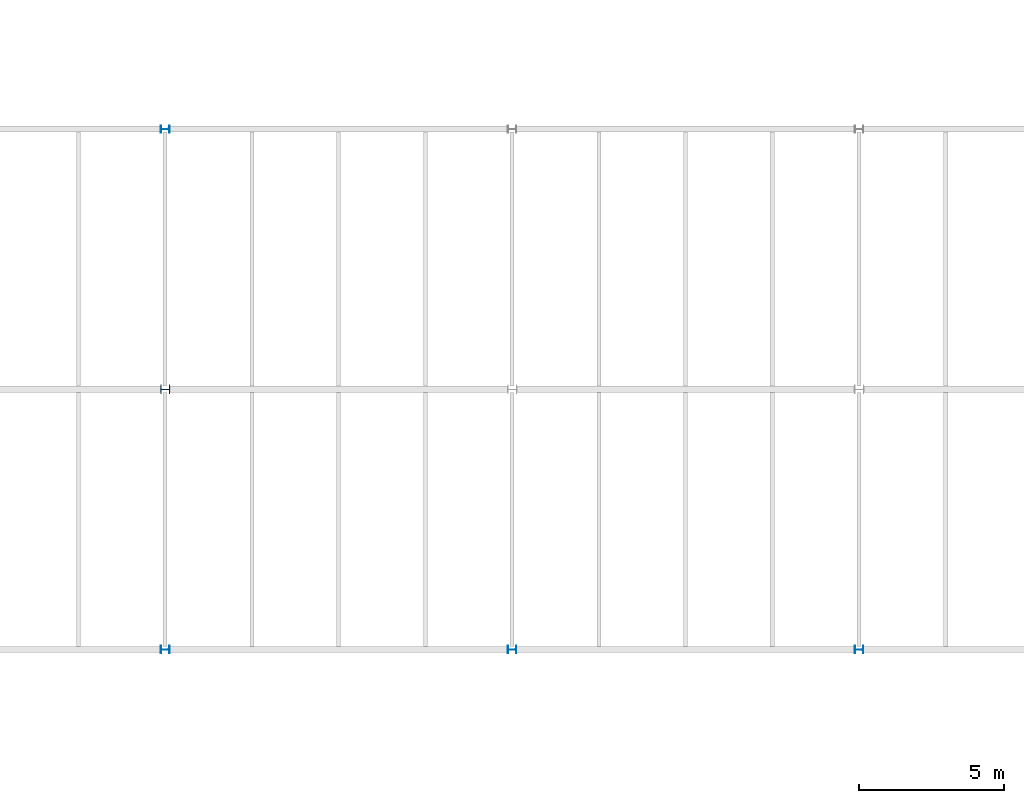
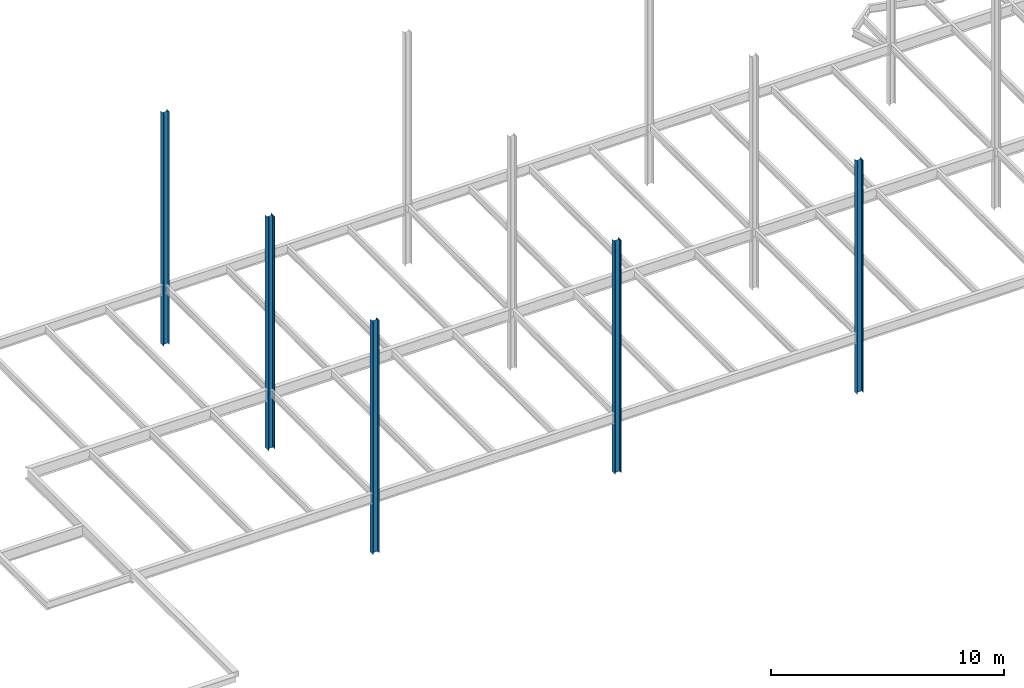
# One storey, part 1 of 26: 5 columns.
"""IFC2X3 building model written with IfcOpenShell, lengths in millimetres."""

from ifc_helpers import new_model, si_unit, origin, place, context, project, spatial, faceted_brep, material, element, save


model = new_model("IFC2X3")

# Units and contexts
context_of_model = context(None, 3, precision=1e-05, world=origin())
ifc_project = project(units=[si_unit("LENGTHUNIT", "METRE", prefix="MILLI")], contexts=[context_of_model])

# Building, storey
building = spatial("IfcBuilding", under=ifc_project, Name="Building", CompositionType="ELEMENT")
storey = spatial("IfcBuildingStorey", under=building, Name="FL4-FRM", CompositionType="ELEMENT")

# Columns
ifc_material_1 = material(Name="A992")
column_1_placement = place(None, origin())
element("IfcColumn", 1, at=column_1_placement, inside=storey, material=ifc_material_1, Name="Column299", context=context_of_model, shape_type="Brep", body=[
    faceted_brep([(24153.0, 26873.0, 10194.2), (24153.0, 27127.0, 10194.2), (24153.0, 27127.0, 22373.0), (24153.0, 26873.0, 22373.0), (24138.4, 27127.0, 10194.2), (24138.4, 27127.0, 22373.0), (24138.4, 27019.6, 10194.2), (24138.4, 27019.6, 22373.0), (24137.9, 27015.7, 10194.2), (24137.9, 27015.7, 22373.0), (24136.4, 27012.0, 10194.2), (24136.4, 27012.0, 22373.0), (24133.9, 27008.9, 10194.2), (24133.9, 27008.9, 22373.0), (24130.8, 27006.4, 10194.2), (24130.8, 27006.4, 22373.0), (24127.1, 27004.9, 10194.2), (24127.1, 27004.9, 22373.0), (24123.2, 27004.4, 10194.2), (24123.2, 27004.4, 22373.0), (23876.8, 27004.4, 10194.2), (23876.8, 27004.4, 22373.0), (23872.9, 27004.9, 10194.2), (23872.9, 27004.9, 22373.0), (23869.2, 27006.4, 10194.2), (23869.2, 27006.4, 22373.0), (23866.1, 27008.9, 10194.2), (23866.1, 27008.9, 22373.0), (23863.6, 27012.0, 10194.2), (23863.6, 27012.0, 22373.0), (23862.1, 27015.7, 10194.2), (23862.1, 27015.7, 22373.0), (23861.6, 27019.6, 10194.2), (23861.6, 27019.6, 22373.0), (23861.6, 27127.0, 10194.2), (23861.6, 27127.0, 22373.0), (23847.0, 27127.0, 10194.2), (23847.0, 27127.0, 22373.0), (23847.0, 26873.0, 10194.2), (23847.0, 26873.0, 22373.0), (23861.6, 26873.0, 10194.2), (23861.6, 26873.0, 22373.0), (23861.6, 26980.4, 10194.2), (23861.6, 26980.4, 22373.0), (23862.1, 26984.3, 10194.2), (23862.1, 26984.3, 22373.0), (23863.6, 26988.0, 10194.2), (23863.6, 26988.0, 22373.0), (23866.1, 26991.1, 10194.2), (23866.1, 26991.1, 22373.0), (23869.2, 26993.6, 10194.2), (23869.2, 26993.6, 22373.0), (23872.9, 26995.1, 10194.2), (23872.9, 26995.1, 22373.0), (23876.8, 26995.6, 10194.2), (23876.8, 26995.6, 22373.0), (24123.2, 26995.6, 10194.2), (24123.2, 26995.6, 22373.0), (24127.1, 26995.1, 10194.2), (24127.1, 26995.1, 22373.0), (24130.8, 26993.6, 10194.2), (24130.8, 26993.6, 22373.0), (24133.9, 26991.1, 10194.2), (24133.9, 26991.1, 22373.0), (24136.4, 26988.0, 10194.2), (24136.4, 26988.0, 22373.0), (24137.9, 26984.3, 10194.2), (24137.9, 26984.3, 22373.0), (24138.4, 26980.4, 10194.2), (24138.4, 26980.4, 22373.0), (24138.4, 26873.0, 10194.2), (24138.4, 26873.0, 22373.0)], [[[0, 1, 2, 3]], [[1, 4, 5, 2]], [[4, 6, 7, 5]], [[6, 8, 9, 7]], [[8, 10, 11, 9]], [[10, 12, 13, 11]], [[12, 14, 15, 13]], [[14, 16, 17, 15]], [[16, 18, 19, 17]], [[18, 20, 21, 19]], [[20, 22, 23, 21]], [[22, 24, 25, 23]], [[24, 26, 27, 25]], [[26, 28, 29, 27]], [[28, 30, 31, 29]], [[30, 32, 33, 31]], [[32, 34, 35, 33]], [[34, 36, 37, 35]], [[36, 38, 39, 37]], [[38, 40, 41, 39]], [[40, 42, 43, 41]], [[42, 44, 45, 43]], [[44, 46, 47, 45]], [[46, 48, 49, 47]], [[48, 50, 51, 49]], [[50, 52, 53, 51]], [[52, 54, 55, 53]], [[54, 56, 57, 55]], [[56, 58, 59, 57]], [[58, 60, 61, 59]], [[60, 62, 63, 61]], [[62, 64, 65, 63]], [[64, 66, 67, 65]], [[66, 68, 69, 67]], [[68, 70, 71, 69]], [[70, 0, 3, 71]], [[0, 70, 68, 66, 64, 62, 60, 58, 56, 54, 52, 50, 48, 46, 44, 42, 40, 38, 36, 34, 32, 30, 28, 26, 24, 22, 20, 18, 16, 14, 12, 10, 8, 6, 4, 1]], [[3, 2, 5, 7, 9, 11, 13, 15, 17, 19, 21, 23, 25, 27, 29, 31, 33, 35, 37, 39, 41, 43, 45, 47, 49, 51, 53, 55, 57, 59, 61, 63, 65, 67, 69, 71]]]),
])
ifc_material_2 = material(Name="A992")
column_2_placement = place(None, origin())
element("IfcColumn", 2, at=column_2_placement, inside=storey, material=ifc_material_2, Name="Column301", context=context_of_model, shape_type="Brep", body=[
    faceted_brep([(24157.0, 17846.5, 10194.2), (24157.0, 18153.5, 10194.2), (24157.0, 18153.5, 22373.0), (24157.0, 17846.5, 22373.0), (24138.3, 18153.5, 10194.2), (24138.3, 18153.5, 22373.0), (24138.3, 18021.1, 10194.2), (24138.3, 18021.1, 22373.0), (24137.8, 18017.2, 10194.2), (24137.8, 18017.2, 22373.0), (24136.3, 18013.5, 10194.2), (24136.3, 18013.5, 22373.0), (24133.8, 18010.4, 10194.2), (24133.8, 18010.4, 22373.0), (24130.7, 18008.0, 10194.2), (24130.7, 18008.0, 22373.0), (24127.0, 18006.5, 10194.2), (24127.0, 18006.5, 22373.0), (24123.1, 18005.9, 10194.2), (24123.1, 18005.9, 22373.0), (23876.9, 18005.9, 10194.2), (23876.9, 18005.9, 22373.0), (23873.0, 18006.5, 10194.2), (23873.0, 18006.5, 22373.0), (23869.3, 18008.0, 10194.2), (23869.3, 18008.0, 22373.0), (23866.2, 18010.4, 10194.2), (23866.2, 18010.4, 22373.0), (23863.7, 18013.5, 10194.2), (23863.7, 18013.5, 22373.0), (23862.2, 18017.2, 10194.2), (23862.2, 18017.2, 22373.0), (23861.7, 18021.1, 10194.2), (23861.7, 18021.1, 22373.0), (23861.7, 18153.5, 10194.2), (23861.7, 18153.5, 22373.0), (23843.0, 18153.5, 10194.2), (23843.0, 18153.5, 22373.0), (23843.0, 17846.5, 10194.2), (23843.0, 17846.5, 22373.0), (23861.7, 17846.5, 10194.2), (23861.7, 17846.5, 22373.0), (23861.7, 17978.9, 10194.2), (23861.7, 17978.9, 22373.0), (23862.2, 17982.8, 10194.2), (23862.2, 17982.8, 22373.0), (23863.7, 17986.5, 10194.2), (23863.7, 17986.5, 22373.0), (23866.2, 17989.6, 10194.2), (23866.2, 17989.6, 22373.0), (23869.3, 17992.0, 10194.2), (23869.3, 17992.0, 22373.0), (23873.0, 17993.5, 10194.2), (23873.0, 17993.5, 22373.0), (23876.9, 17994.1, 10194.2), (23876.9, 17994.1, 22373.0), (24123.1, 17994.1, 10194.2), (24123.1, 17994.1, 22373.0), (24127.0, 17993.5, 10194.2), (24127.0, 17993.5, 22373.0), (24130.7, 17992.0, 10194.2), (24130.7, 17992.0, 22373.0), (24133.8, 17989.6, 10194.2), (24133.8, 17989.6, 22373.0), (24136.3, 17986.5, 10194.2), (24136.3, 17986.5, 22373.0), (24137.8, 17982.8, 10194.2), (24137.8, 17982.8, 22373.0), (24138.3, 17978.9, 10194.2), (24138.3, 17978.9, 22373.0), (24138.3, 17846.5, 10194.2), (24138.3, 17846.5, 22373.0)], [[[0, 1, 2, 3]], [[1, 4, 5, 2]], [[4, 6, 7, 5]], [[6, 8, 9, 7]], [[8, 10, 11, 9]], [[10, 12, 13, 11]], [[12, 14, 15, 13]], [[14, 16, 17, 15]], [[16, 18, 19, 17]], [[18, 20, 21, 19]], [[20, 22, 23, 21]], [[22, 24, 25, 23]], [[24, 26, 27, 25]], [[26, 28, 29, 27]], [[28, 30, 31, 29]], [[30, 32, 33, 31]], [[32, 34, 35, 33]], [[34, 36, 37, 35]], [[36, 38, 39, 37]], [[38, 40, 41, 39]], [[40, 42, 43, 41]], [[42, 44, 45, 43]], [[44, 46, 47, 45]], [[46, 48, 49, 47]], [[48, 50, 51, 49]], [[50, 52, 53, 51]], [[52, 54, 55, 53]], [[54, 56, 57, 55]], [[56, 58, 59, 57]], [[58, 60, 61, 59]], [[60, 62, 63, 61]], [[62, 64, 65, 63]], [[64, 66, 67, 65]], [[66, 68, 69, 67]], [[68, 70, 71, 69]], [[70, 0, 3, 71]], [[0, 70, 68, 66, 64, 62, 60, 58, 56, 54, 52, 50, 48, 46, 44, 42, 40, 38, 36, 34, 32, 30, 28, 26, 24, 22, 20, 18, 16, 14, 12, 10, 8, 6, 4, 1]], [[3, 2, 5, 7, 9, 11, 13, 15, 17, 19, 21, 23, 25, 27, 29, 31, 33, 35, 37, 39, 41, 43, 45, 47, 49, 51, 53, 55, 57, 59, 61, 63, 65, 67, 69, 71]]]),
])
ifc_material_3 = material(Name="A992")
column_3_placement = place(None, origin())
element("IfcColumn", 3, at=column_3_placement, inside=storey, material=ifc_material_3, Name="Column303", context=context_of_model, shape_type="Brep", body=[
    faceted_brep([(24153.0, 8873.0, 10194.2), (24153.0, 9127.0, 10194.2), (24153.0, 9127.0, 22373.0), (24153.0, 8873.0, 22373.0), (24138.4, 9127.0, 10194.2), (24138.4, 9127.0, 22373.0), (24138.4, 9019.6, 10194.2), (24138.4, 9019.6, 22373.0), (24137.9, 9015.67, 10194.2), (24137.9, 9015.67, 22373.0), (24136.4, 9012.0, 10194.2), (24136.4, 9012.0, 22373.0), (24133.9, 9008.85, 10194.2), (24133.9, 9008.85, 22373.0), (24130.8, 9006.44, 10194.2), (24130.8, 9006.44, 22373.0), (24127.1, 9004.92, 10194.2), (24127.1, 9004.92, 22373.0), (24123.2, 9004.4, 10194.2), (24123.2, 9004.4, 22373.0), (23876.8, 9004.4, 10194.2), (23876.8, 9004.4, 22373.0), (23872.9, 9004.92, 10194.2), (23872.9, 9004.92, 22373.0), (23869.2, 9006.44, 10194.2), (23869.2, 9006.44, 22373.0), (23866.1, 9008.85, 10194.2), (23866.1, 9008.85, 22373.0), (23863.6, 9012.0, 10194.2), (23863.6, 9012.0, 22373.0), (23862.1, 9015.67, 10194.2), (23862.1, 9015.67, 22373.0), (23861.6, 9019.6, 10194.2), (23861.6, 9019.6, 22373.0), (23861.6, 9127.0, 10194.2), (23861.6, 9127.0, 22373.0), (23847.0, 9127.0, 10194.2), (23847.0, 9127.0, 22373.0), (23847.0, 8873.0, 10194.2), (23847.0, 8873.0, 22373.0), (23861.6, 8873.0, 10194.2), (23861.6, 8873.0, 22373.0), (23861.6, 8980.4, 10194.2), (23861.6, 8980.4, 22373.0), (23862.1, 8984.33, 10194.2), (23862.1, 8984.33, 22373.0), (23863.6, 8988.0, 10194.2), (23863.6, 8988.0, 22373.0), (23866.1, 8991.15, 10194.2), (23866.1, 8991.15, 22373.0), (23869.2, 8993.56, 10194.2), (23869.2, 8993.56, 22373.0), (23872.9, 8995.08, 10194.2), (23872.9, 8995.08, 22373.0), (23876.8, 8995.6, 10194.2), (23876.8, 8995.6, 22373.0), (24123.2, 8995.6, 10194.2), (24123.2, 8995.6, 22373.0), (24127.1, 8995.08, 10194.2), (24127.1, 8995.08, 22373.0), (24130.8, 8993.56, 10194.2), (24130.8, 8993.56, 22373.0), (24133.9, 8991.15, 10194.2), (24133.9, 8991.15, 22373.0), (24136.4, 8988.0, 10194.2), (24136.4, 8988.0, 22373.0), (24137.9, 8984.33, 10194.2), (24137.9, 8984.33, 22373.0), (24138.4, 8980.4, 10194.2), (24138.4, 8980.4, 22373.0), (24138.4, 8873.0, 10194.2), (24138.4, 8873.0, 22373.0)], [[[0, 1, 2, 3]], [[1, 4, 5, 2]], [[4, 6, 7, 5]], [[6, 8, 9, 7]], [[8, 10, 11, 9]], [[10, 12, 13, 11]], [[12, 14, 15, 13]], [[14, 16, 17, 15]], [[16, 18, 19, 17]], [[18, 20, 21, 19]], [[20, 22, 23, 21]], [[22, 24, 25, 23]], [[24, 26, 27, 25]], [[26, 28, 29, 27]], [[28, 30, 31, 29]], [[30, 32, 33, 31]], [[32, 34, 35, 33]], [[34, 36, 37, 35]], [[36, 38, 39, 37]], [[38, 40, 41, 39]], [[40, 42, 43, 41]], [[42, 44, 45, 43]], [[44, 46, 47, 45]], [[46, 48, 49, 47]], [[48, 50, 51, 49]], [[50, 52, 53, 51]], [[52, 54, 55, 53]], [[54, 56, 57, 55]], [[56, 58, 59, 57]], [[58, 60, 61, 59]], [[60, 62, 63, 61]], [[62, 64, 65, 63]], [[64, 66, 67, 65]], [[66, 68, 69, 67]], [[68, 70, 71, 69]], [[70, 0, 3, 71]], [[0, 70, 68, 66, 64, 62, 60, 58, 56, 54, 52, 50, 48, 46, 44, 42, 40, 38, 36, 34, 32, 30, 28, 26, 24, 22, 20, 18, 16, 14, 12, 10, 8, 6, 4, 1]], [[3, 2, 5, 7, 9, 11, 13, 15, 17, 19, 21, 23, 25, 27, 29, 31, 33, 35, 37, 39, 41, 43, 45, 47, 49, 51, 53, 55, 57, 59, 61, 63, 65, 67, 69, 71]]]),
])
ifc_material_4 = material(Name="A992")
column_4_placement = place(None, origin())
element("IfcColumn", 4, at=column_4_placement, inside=storey, material=ifc_material_4, Name="Column309", context=context_of_model, shape_type="Brep", body=[
    faceted_brep([(36153.0, 8873.0, 10194.2), (36153.0, 9127.0, 10194.2), (36153.0, 9127.0, 22373.0), (36153.0, 8873.0, 22373.0), (36138.4, 9127.0, 10194.2), (36138.4, 9127.0, 22373.0), (36138.4, 9019.6, 10194.2), (36138.4, 9019.6, 22373.0), (36137.9, 9015.67, 10194.2), (36137.9, 9015.67, 22373.0), (36136.4, 9012.0, 10194.2), (36136.4, 9012.0, 22373.0), (36133.9, 9008.85, 10194.2), (36133.9, 9008.85, 22373.0), (36130.8, 9006.44, 10194.2), (36130.8, 9006.44, 22373.0), (36127.1, 9004.92, 10194.2), (36127.1, 9004.92, 22373.0), (36123.2, 9004.4, 10194.2), (36123.2, 9004.4, 22373.0), (35876.8, 9004.4, 10194.2), (35876.8, 9004.4, 22373.0), (35872.9, 9004.92, 10194.2), (35872.9, 9004.92, 22373.0), (35869.2, 9006.44, 10194.2), (35869.2, 9006.44, 22373.0), (35866.1, 9008.85, 10194.2), (35866.1, 9008.85, 22373.0), (35863.6, 9012.0, 10194.2), (35863.6, 9012.0, 22373.0), (35862.1, 9015.67, 10194.2), (35862.1, 9015.67, 22373.0), (35861.6, 9019.6, 10194.2), (35861.6, 9019.6, 22373.0), (35861.6, 9127.0, 10194.2), (35861.6, 9127.0, 22373.0), (35847.0, 9127.0, 10194.2), (35847.0, 9127.0, 22373.0), (35847.0, 8873.0, 10194.2), (35847.0, 8873.0, 22373.0), (35861.6, 8873.0, 10194.2), (35861.6, 8873.0, 22373.0), (35861.6, 8980.4, 10194.2), (35861.6, 8980.4, 22373.0), (35862.1, 8984.33, 10194.2), (35862.1, 8984.33, 22373.0), (35863.6, 8988.0, 10194.2), (35863.6, 8988.0, 22373.0), (35866.1, 8991.15, 10194.2), (35866.1, 8991.15, 22373.0), (35869.2, 8993.56, 10194.2), (35869.2, 8993.56, 22373.0), (35872.9, 8995.08, 10194.2), (35872.9, 8995.08, 22373.0), (35876.8, 8995.6, 10194.2), (35876.8, 8995.6, 22373.0), (36123.2, 8995.6, 10194.2), (36123.2, 8995.6, 22373.0), (36127.1, 8995.08, 10194.2), (36127.1, 8995.08, 22373.0), (36130.8, 8993.56, 10194.2), (36130.8, 8993.56, 22373.0), (36133.9, 8991.15, 10194.2), (36133.9, 8991.15, 22373.0), (36136.4, 8988.0, 10194.2), (36136.4, 8988.0, 22373.0), (36137.9, 8984.33, 10194.2), (36137.9, 8984.33, 22373.0), (36138.4, 8980.4, 10194.2), (36138.4, 8980.4, 22373.0), (36138.4, 8873.0, 10194.2), (36138.4, 8873.0, 22373.0)], [[[0, 1, 2, 3]], [[1, 4, 5, 2]], [[4, 6, 7, 5]], [[6, 8, 9, 7]], [[8, 10, 11, 9]], [[10, 12, 13, 11]], [[12, 14, 15, 13]], [[14, 16, 17, 15]], [[16, 18, 19, 17]], [[18, 20, 21, 19]], [[20, 22, 23, 21]], [[22, 24, 25, 23]], [[24, 26, 27, 25]], [[26, 28, 29, 27]], [[28, 30, 31, 29]], [[30, 32, 33, 31]], [[32, 34, 35, 33]], [[34, 36, 37, 35]], [[36, 38, 39, 37]], [[38, 40, 41, 39]], [[40, 42, 43, 41]], [[42, 44, 45, 43]], [[44, 46, 47, 45]], [[46, 48, 49, 47]], [[48, 50, 51, 49]], [[50, 52, 53, 51]], [[52, 54, 55, 53]], [[54, 56, 57, 55]], [[56, 58, 59, 57]], [[58, 60, 61, 59]], [[60, 62, 63, 61]], [[62, 64, 65, 63]], [[64, 66, 67, 65]], [[66, 68, 69, 67]], [[68, 70, 71, 69]], [[70, 0, 3, 71]], [[0, 70, 68, 66, 64, 62, 60, 58, 56, 54, 52, 50, 48, 46, 44, 42, 40, 38, 36, 34, 32, 30, 28, 26, 24, 22, 20, 18, 16, 14, 12, 10, 8, 6, 4, 1]], [[3, 2, 5, 7, 9, 11, 13, 15, 17, 19, 21, 23, 25, 27, 29, 31, 33, 35, 37, 39, 41, 43, 45, 47, 49, 51, 53, 55, 57, 59, 61, 63, 65, 67, 69, 71]]]),
])
ifc_material_5 = material(Name="A992")
column_5_placement = place(None, origin())
element("IfcColumn", 5, at=column_5_placement, inside=storey, material=ifc_material_5, Name="Column315", context=context_of_model, shape_type="Brep", body=[
    faceted_brep([(48153.0, 8873.0, 10194.2), (48153.0, 9127.0, 10194.2), (48153.0, 9127.0, 22373.0), (48153.0, 8873.0, 22373.0), (48138.4, 9127.0, 10194.2), (48138.4, 9127.0, 22373.0), (48138.4, 9019.6, 10194.2), (48138.4, 9019.6, 22373.0), (48137.9, 9015.67, 10194.2), (48137.9, 9015.67, 22373.0), (48136.4, 9012.0, 10194.2), (48136.4, 9012.0, 22373.0), (48133.9, 9008.85, 10194.2), (48133.9, 9008.85, 22373.0), (48130.8, 9006.44, 10194.2), (48130.8, 9006.44, 22373.0), (48127.1, 9004.92, 10194.2), (48127.1, 9004.92, 22373.0), (48123.2, 9004.4, 10194.2), (48123.2, 9004.4, 22373.0), (47876.8, 9004.4, 10194.2), (47876.8, 9004.4, 22373.0), (47872.9, 9004.92, 10194.2), (47872.9, 9004.92, 22373.0), (47869.2, 9006.44, 10194.2), (47869.2, 9006.44, 22373.0), (47866.1, 9008.85, 10194.2), (47866.1, 9008.85, 22373.0), (47863.6, 9012.0, 10194.2), (47863.6, 9012.0, 22373.0), (47862.1, 9015.67, 10194.2), (47862.1, 9015.67, 22373.0), (47861.6, 9019.6, 10194.2), (47861.6, 9019.6, 22373.0), (47861.6, 9127.0, 10194.2), (47861.6, 9127.0, 22373.0), (47847.0, 9127.0, 10194.2), (47847.0, 9127.0, 22373.0), (47847.0, 8873.0, 10194.2), (47847.0, 8873.0, 22373.0), (47861.6, 8873.0, 10194.2), (47861.6, 8873.0, 22373.0), (47861.6, 8980.4, 10194.2), (47861.6, 8980.4, 22373.0), (47862.1, 8984.33, 10194.2), (47862.1, 8984.33, 22373.0), (47863.6, 8988.0, 10194.2), (47863.6, 8988.0, 22373.0), (47866.1, 8991.15, 10194.2), (47866.1, 8991.15, 22373.0), (47869.2, 8993.56, 10194.2), (47869.2, 8993.56, 22373.0), (47872.9, 8995.08, 10194.2), (47872.9, 8995.08, 22373.0), (47876.8, 8995.6, 10194.2), (47876.8, 8995.6, 22373.0), (48123.2, 8995.6, 10194.2), (48123.2, 8995.6, 22373.0), (48127.1, 8995.08, 10194.2), (48127.1, 8995.08, 22373.0), (48130.8, 8993.56, 10194.2), (48130.8, 8993.56, 22373.0), (48133.9, 8991.15, 10194.2), (48133.9, 8991.15, 22373.0), (48136.4, 8988.0, 10194.2), (48136.4, 8988.0, 22373.0), (48137.9, 8984.33, 10194.2), (48137.9, 8984.33, 22373.0), (48138.4, 8980.4, 10194.2), (48138.4, 8980.4, 22373.0), (48138.4, 8873.0, 10194.2), (48138.4, 8873.0, 22373.0)], [[[0, 1, 2, 3]], [[1, 4, 5, 2]], [[4, 6, 7, 5]], [[6, 8, 9, 7]], [[8, 10, 11, 9]], [[10, 12, 13, 11]], [[12, 14, 15, 13]], [[14, 16, 17, 15]], [[16, 18, 19, 17]], [[18, 20, 21, 19]], [[20, 22, 23, 21]], [[22, 24, 25, 23]], [[24, 26, 27, 25]], [[26, 28, 29, 27]], [[28, 30, 31, 29]], [[30, 32, 33, 31]], [[32, 34, 35, 33]], [[34, 36, 37, 35]], [[36, 38, 39, 37]], [[38, 40, 41, 39]], [[40, 42, 43, 41]], [[42, 44, 45, 43]], [[44, 46, 47, 45]], [[46, 48, 49, 47]], [[48, 50, 51, 49]], [[50, 52, 53, 51]], [[52, 54, 55, 53]], [[54, 56, 57, 55]], [[56, 58, 59, 57]], [[58, 60, 61, 59]], [[60, 62, 63, 61]], [[62, 64, 65, 63]], [[64, 66, 67, 65]], [[66, 68, 69, 67]], [[68, 70, 71, 69]], [[70, 0, 3, 71]], [[0, 70, 68, 66, 64, 62, 60, 58, 56, 54, 52, 50, 48, 46, 44, 42, 40, 38, 36, 34, 32, 30, 28, 26, 24, 22, 20, 18, 16, 14, 12, 10, 8, 6, 4, 1]], [[3, 2, 5, 7, 9, 11, 13, 15, 17, 19, 21, 23, 25, 27, 29, 31, 33, 35, 37, 39, 41, 43, 45, 47, 49, 51, 53, 55, 57, 59, 61, 63, 65, 67, 69, 71]]]),
])

save(model, "model.ifc")
